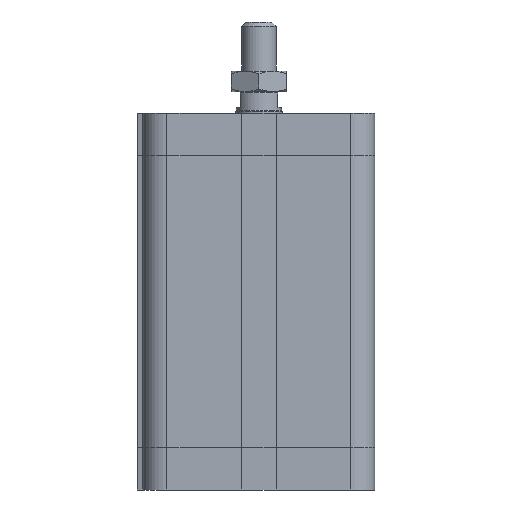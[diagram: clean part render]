
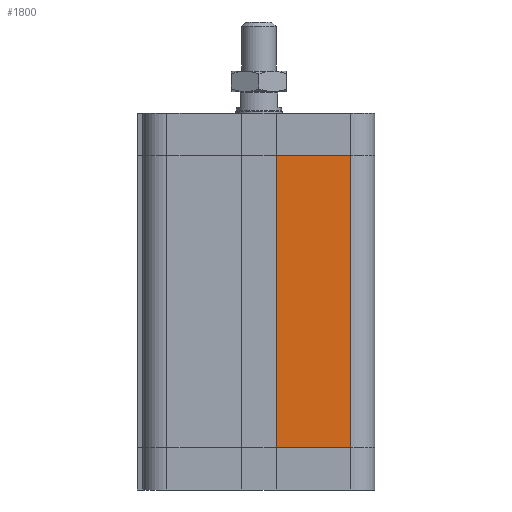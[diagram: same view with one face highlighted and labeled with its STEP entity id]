
A CAD part, left-side view. The second image highlights one B-rep face of the part: STEP entity #1800.
In plain terms, the highlighted planar face has unit normal (-1, 0, 0).
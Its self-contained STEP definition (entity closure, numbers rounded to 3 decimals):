
#1713=CARTESIAN_POINT('',(-40.0,-6.,14.5));
#1714=VERTEX_POINT('',#1713);
#1721=CARTESIAN_POINT('',(-40.0,-6.,115.5));
#1722=VERTEX_POINT('',#1721);
#1723=CARTESIAN_POINT('',(-40.0,-6.,14.5));
#1724=DIRECTION('',(0.0,0.0,1.0));
#1725=VECTOR('',#1724,101.0);
#1726=LINE('',#1723,#1725);
#1727=EDGE_CURVE('',#1714,#1722,#1726,.T.);
#1770=CARTESIAN_POINT('',(-40.,-31.75,0.0));
#1771=DIRECTION('',(-1.0,0.0,0.0));
#1772=DIRECTION('',(0.0,0.0,1.0));
#1773=AXIS2_PLACEMENT_3D('',#1770,#1771,#1772);
#1774=PLANE('',#1773);
#1775=CARTESIAN_POINT('',(-40.,-31.75,14.5));
#1776=VERTEX_POINT('',#1775);
#1777=CARTESIAN_POINT('',(-40.0,-6.0,14.5));
#1778=DIRECTION('',(0.0,-1.0,0.0));
#1779=VECTOR('',#1778,25.75);
#1780=LINE('',#1777,#1779);
#1781=EDGE_CURVE('',#1714,#1776,#1780,.T.);
#1782=ORIENTED_EDGE('',*,*,#1781,.T.);
#1783=CARTESIAN_POINT('',(-40.,-31.75,115.5));
#1784=VERTEX_POINT('',#1783);
#1785=CARTESIAN_POINT('',(-40.,-31.75,14.5));
#1786=DIRECTION('',(0.0,0.0,1.0));
#1787=VECTOR('',#1786,101.0);
#1788=LINE('',#1785,#1787);
#1789=EDGE_CURVE('',#1776,#1784,#1788,.T.);
#1790=ORIENTED_EDGE('',*,*,#1789,.T.);
#1791=CARTESIAN_POINT('',(-40.0,-6.0,115.5));
#1792=DIRECTION('',(0.0,-1.0,0.0));
#1793=VECTOR('',#1792,25.75);
#1794=LINE('',#1791,#1793);
#1795=EDGE_CURVE('',#1722,#1784,#1794,.T.);
#1796=ORIENTED_EDGE('',*,*,#1795,.F.);
#1797=ORIENTED_EDGE('',*,*,#1727,.F.);
#1798=EDGE_LOOP('',(#1782,#1790,#1796,#1797));
#1799=FACE_OUTER_BOUND('',#1798,.T.);
#1800=ADVANCED_FACE('',(#1799),#1774,.T.);
